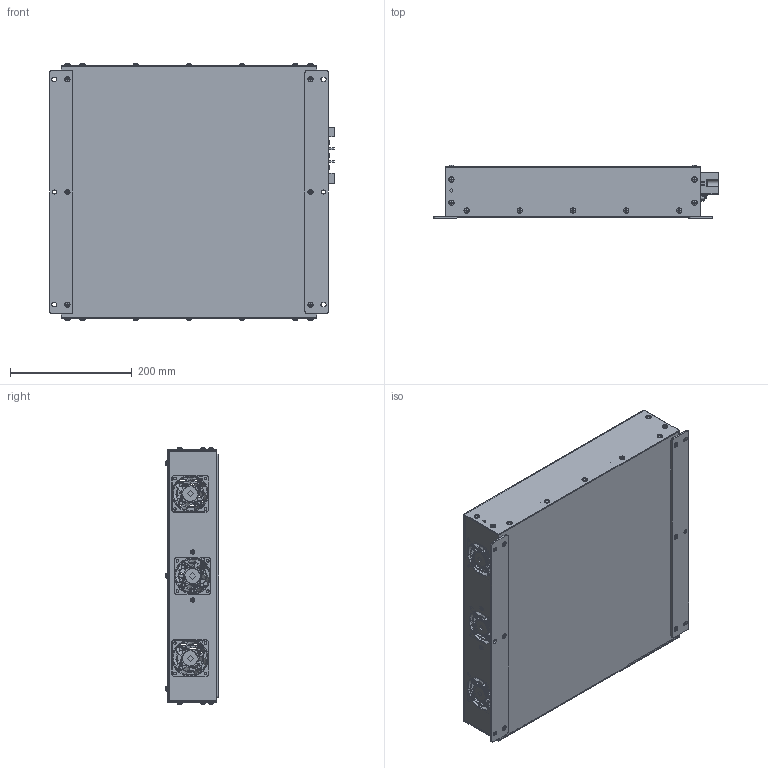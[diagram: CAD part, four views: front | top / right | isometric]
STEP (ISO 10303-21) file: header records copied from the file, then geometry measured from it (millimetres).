
FILE_DESCRIPTION(/* description */ ('','CAx-IF Rec.Pracs.---Representation and Presentation of Product Manufacturing Information (PMI)---4.0---2014-10-13'),/* implementation_level */ '2;1');
FILE_NAME(/* name */ 'H:\04_배터리_전기종\고부하용 배터리 케이스_3D\[NEW] VW3COM 설계자용\VW3COM.stp',/* time_stamp */ '2022-06-16T17:44:47+09:00',/* author */ ('jjang'),/* organization */ (''),/* preprocessor_version */ 'ST-DEVELOPER v18.1',/* originating_system */ 'Autodesk Inventor 2021',/* authorisation */ '');
FILE_SCHEMA (('AP242_MANAGED_MODEL_BASED_3D_ENGINEERING_MIM_LF { 1 0 10303 442 1 1 4 }'));
Products named in the file (1): VW3COM_Shrinkwrap_1
Bounding box: 467 x 87.92 x 421.84 mm (x, y, z)
Volume: 872478.6 mm3; surface area: 1114697.8 mm2
Topology: 13 solids, 13 shells, 3978 faces, 11976 edges, 8385 vertices
Faces by surface type: plane 2124, cylinder 1059, bspline 596, torus 129, cone 43, sphere 27
Full cylindrical faces by diameter (mm): 0.609 x1, 0.61 x27, 0.635 x9, 0.9 x6, 1.397 x9, 2.286 x9, 2.8 x8, 2.957 x4, 3 x2, 3.048 x4, 3.6 x4, 3.783 x2, 3.8 x58, 3.9 x2, 4 x11, 4.3 x12, 4.5 x12, 5 x9, 5.3 x10, 5.4 x2, 5.429 x2, 6 x2, 6.082 x1, 6.6 x2, 7.5 x6, 8 x1, 8.8 x26, 10 x6, 25.4 x3, 55.4 x3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
Entity records: 167703 total; most frequent: CARTESIAN_POINT 58709, ORIENTED_EDGE 23914, DIRECTION 19200, EDGE_CURVE 11957, VERTEX_POINT 8385, AXIS2_PLACEMENT_3D 6472, LINE 6256, VECTOR 6256
